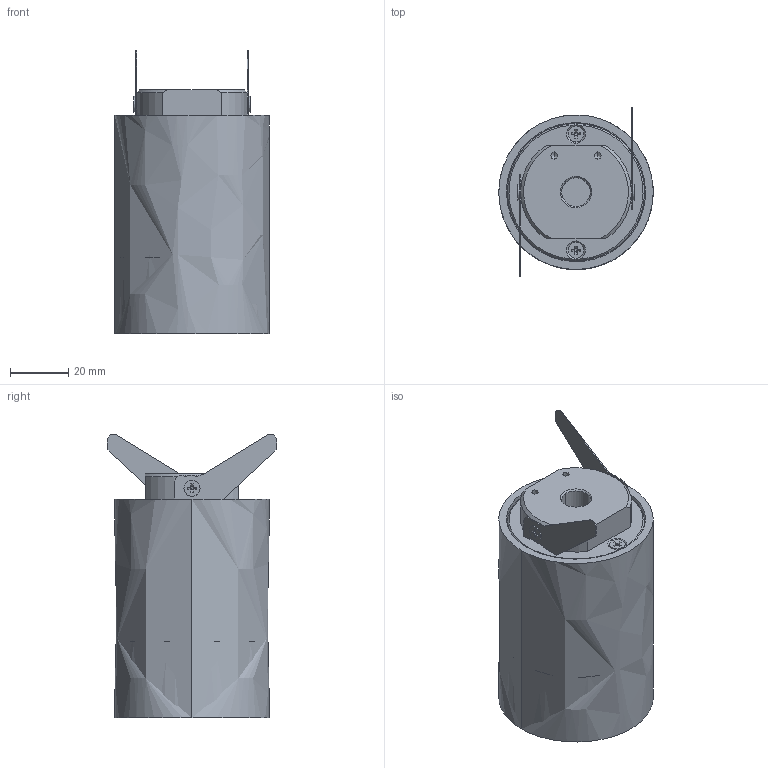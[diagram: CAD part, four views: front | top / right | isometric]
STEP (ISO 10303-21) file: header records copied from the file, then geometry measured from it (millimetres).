
FILE_DESCRIPTION(/* description */ (''),/* implementation_level */ '2;1');
FILE_NAME(/* name */ 'X122__.008',/* time_stamp */ '2024-08-30T12:24:47+02:00',/* author */ (''),/* organization */ (''),/* preprocessor_version */ 'ST-DEVELOPER v16.5',/* originating_system */ '',/* authorisation */ '');
FILE_SCHEMA (('AUTOMOTIVE_DESIGN'));
Length unit declared in the file: millimetre
Products named in the file (1): Document
Bounding box: 53 x 58 x 97.4 mm (x, y, z)
Volume: 38480.9 mm3; surface area: 47359.7 mm2
Topology: 9 solids, 10 shells, 352 faces, 859 edges, 516 vertices
Faces by surface type: bspline 180, plane 172
Entity records: 12988 total; most frequent: CARTESIAN_POINT 7759, ORIENTED_EDGE 1676, EDGE_CURVE 839, VERTEX_POINT 516, B_SPLINE_CURVE_WITH_KNOTS 515, EDGE_LOOP 378, ADVANCED_FACE 352, FACE_OUTER_BOUND 352
